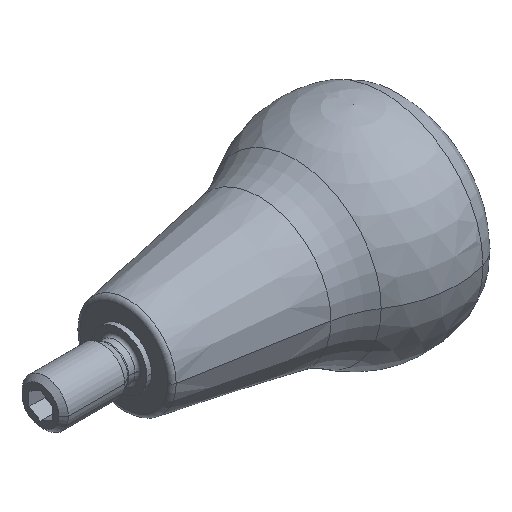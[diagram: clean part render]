
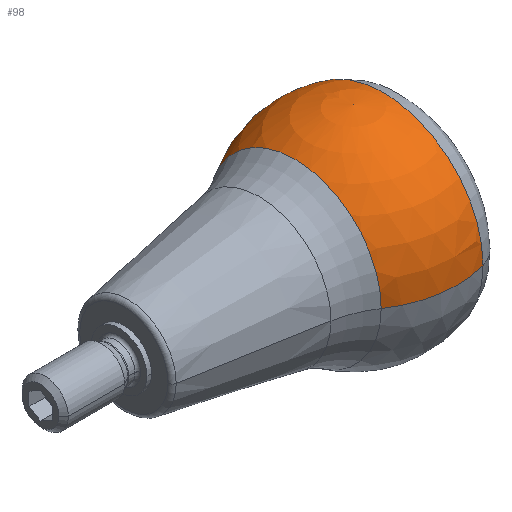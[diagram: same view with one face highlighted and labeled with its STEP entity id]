
A CAD part, isometric view. The second image highlights one B-rep face of the part: STEP entity #98.
In plain terms, the highlighted spherical face has radius 22.5 mm.
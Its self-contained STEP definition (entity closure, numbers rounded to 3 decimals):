
#17 = CARTESIAN_POINT ( 'NONE',  ( 57.091, -21.538, 0. ) ) ;
#26 = CIRCLE ( 'NONE', #506, 21.538 ) ;
#98 = ADVANCED_FACE ( 'SPHERE_0', ( #973 ), #497, .T. ) ;
#106 = ORIENTED_EDGE ( 'NONE', *, *, #1110, .F. ) ;
#116 = DIRECTION ( 'NONE',  ( 0., 0., -1. ) ) ;
#171 = AXIS2_PLACEMENT_3D ( 'NONE', #798, #501, #589 ) ;
#237 = CIRCLE ( 'NONE', #171, 18.64 ) ;
#241 = VERTEX_POINT ( 'NONE', #598 ) ;
#257 = AXIS2_PLACEMENT_3D ( 'NONE', #994, #576, #791 ) ;
#278 = EDGE_CURVE ( 'NONE', #1054, #241, #237, .T. ) ;
#302 = AXIS2_PLACEMENT_3D ( 'NONE', #616, #116, #523 ) ;
#325 = AXIS2_PLACEMENT_3D ( 'NONE', #902, #1111, #702 ) ;
#331 = CARTESIAN_POINT ( 'NONE',  ( 57.091, 0., 0. ) ) ;
#381 = EDGE_CURVE ( 'NONE', #927, #241, #783, .T. ) ;
#463 = ORIENTED_EDGE ( 'NONE', *, *, #381, .T. ) ;
#497 = SPHERICAL_SURFACE ( 'NONE', #257, 22.5 ) ;
#501 = DIRECTION ( 'NONE',  ( -1., 0., 0. ) ) ;
#506 = AXIS2_PLACEMENT_3D ( 'NONE', #331, #546, #726 ) ;
#520 = ORIENTED_EDGE ( 'NONE', *, *, #851, .T. ) ;
#523 = DIRECTION ( 'NONE',  ( 0., 1., 0. ) ) ;
#546 = DIRECTION ( 'NONE',  ( -1., 0., 0. ) ) ;
#576 = DIRECTION ( 'NONE',  ( 0., 0., -1. ) ) ;
#589 = DIRECTION ( 'NONE',  ( 0., -1., 0. ) ) ;
#595 = CIRCLE ( 'NONE', #302, 22.5 ) ;
#598 = CARTESIAN_POINT ( 'NONE',  ( 37.982, 18.64, 0. ) ) ;
#616 = CARTESIAN_POINT ( 'NONE',  ( 50.584, 0., 0. ) ) ;
#659 = CARTESIAN_POINT ( 'NONE',  ( 57.091, 21.538, 0. ) ) ;
#702 = DIRECTION ( 'NONE',  ( 1., 0., 0. ) ) ;
#723 = VERTEX_POINT ( 'NONE', #17 ) ;
#726 = DIRECTION ( 'NONE',  ( 0., -1., 0. ) ) ;
#759 = EDGE_LOOP ( 'NONE', ( #106, #520, #463, #1234 ) ) ;
#783 = CIRCLE ( 'NONE', #325, 22.5 ) ;
#785 = CARTESIAN_POINT ( 'NONE',  ( 37.982, -18.64, 0. ) ) ;
#791 = DIRECTION ( 'NONE',  ( 0., 1., 0. ) ) ;
#798 = CARTESIAN_POINT ( 'NONE',  ( 37.982, 0., 0. ) ) ;
#851 = EDGE_CURVE ( 'NONE', #723, #927, #26, .T. ) ;
#902 = CARTESIAN_POINT ( 'NONE',  ( 50.584, 0., 0. ) ) ;
#927 = VERTEX_POINT ( 'NONE', #659 ) ;
#973 = FACE_OUTER_BOUND ( 'NONE', #759, .T. ) ;
#994 = CARTESIAN_POINT ( 'NONE',  ( 50.584, 0., 0. ) ) ;
#1054 = VERTEX_POINT ( 'NONE', #785 ) ;
#1110 = EDGE_CURVE ( 'NONE', #723, #1054, #595, .T. ) ;
#1111 = DIRECTION ( 'NONE',  ( 0., 0., 1. ) ) ;
#1234 = ORIENTED_EDGE ( 'NONE', *, *, #278, .F. ) ;
